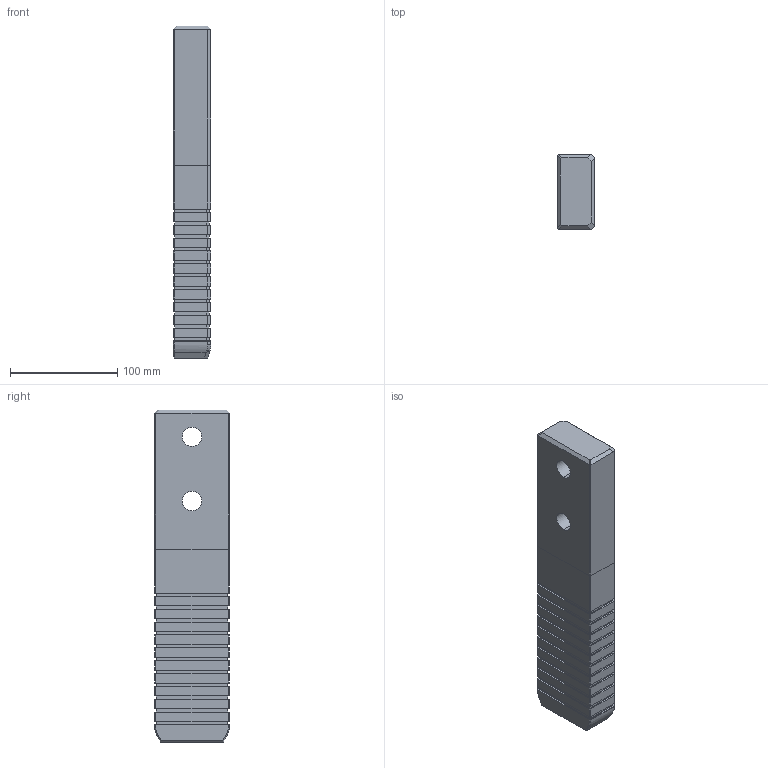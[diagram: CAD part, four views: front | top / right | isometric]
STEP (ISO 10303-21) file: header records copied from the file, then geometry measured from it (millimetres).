
FILE_DESCRIPTION((''),'2;1');
FILE_NAME('','2010-09-22T13:23:09+09:00',('misumi'),(''),'M/STEP i/f 1R2-14','CADmeister v5.1','');
FILE_SCHEMA(('AUTOMOTIVE_DESIGN'));
Length unit declared in the file: millimetre
Products named in the file (1): GWAZ70-310
Bounding box: 35 x 70 x 310 mm (x, y, z)
Volume: 724653.9 mm3; surface area: 76725 mm2
Topology: 1 solids, 1 shells, 247 faces, 647 edges, 424 vertices
Faces by surface type: plane 232, cylinder 7, bspline 6, cone 2
Entity records: 7799 total; most frequent: CARTESIAN_POINT 1661, ORIENTED_EDGE 1294, DIRECTION 1125, EDGE_CURVE 647, LINE 617, VECTOR 617, VERTEX_POINT 424, EDGE_LOOP 273
